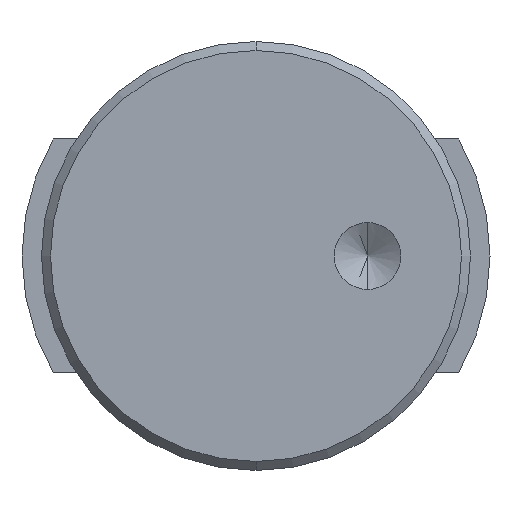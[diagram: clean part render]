
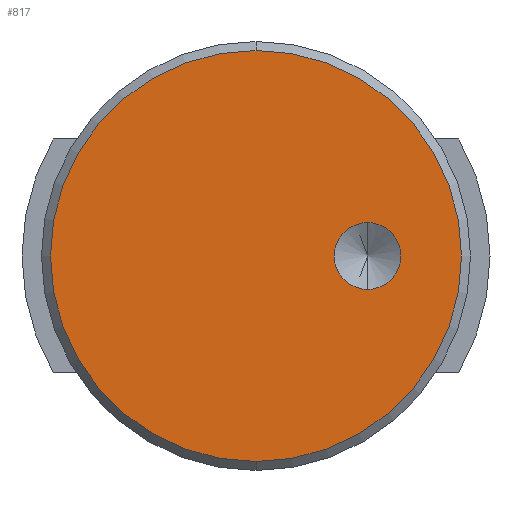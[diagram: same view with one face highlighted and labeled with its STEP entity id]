
A CAD part, front view. The second image highlights one B-rep face of the part: STEP entity #817.
In plain terms, the highlighted planar face has unit normal (0, -1, 0).
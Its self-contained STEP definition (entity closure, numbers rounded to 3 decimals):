
#11 = CARTESIAN_POINT ( 'NONE',  ( 14.3, 0., 0. ) ) ;
#35 = EDGE_LOOP ( 'NONE', ( #2058, #1103 ) ) ;
#44 = DIRECTION ( 'NONE',  ( 0., 0., 1. ) ) ;
#50 = DIRECTION ( 'NONE',  ( 0., -1., 0. ) ) ;
#108 = ORIENTED_EDGE ( 'NONE', *, *, #1820, .F. ) ;
#149 = VERTEX_POINT ( 'NONE', #1037 ) ;
#155 = AXIS2_PLACEMENT_3D ( 'NONE', #2551, #1340, #44 ) ;
#169 = CIRCLE ( 'NONE', #2294, 26.35 ) ;
#210 = FACE_OUTER_BOUND ( 'NONE', #35, .T. ) ;
#240 = EDGE_CURVE ( 'NONE', #149, #2436, #987, .T. ) ;
#258 = DIRECTION ( 'NONE',  ( 0., 0., -1. ) ) ;
#277 = DIRECTION ( 'NONE',  ( 0., 1., 0. ) ) ;
#322 = CARTESIAN_POINT ( 'NONE',  ( 14.3, 0., 4.283 ) ) ;
#366 = AXIS2_PLACEMENT_3D ( 'NONE', #912, #277, #1744 ) ;
#568 = CARTESIAN_POINT ( 'NONE',  ( 0., 0., 0. ) ) ;
#766 = DIRECTION ( 'NONE',  ( 0., 0., 1. ) ) ;
#795 = FACE_BOUND ( 'NONE', #2586, .T. ) ;
#817 = ADVANCED_FACE ( 'NONE', ( #795, #210 ), #1546, .F. ) ;
#912 = CARTESIAN_POINT ( 'NONE',  ( 0., 0., 0. ) ) ;
#987 = CIRCLE ( 'NONE', #155, 26.35 ) ;
#990 = EDGE_CURVE ( 'NONE', #2436, #149, #169, .T. ) ;
#1016 = AXIS2_PLACEMENT_3D ( 'NONE', #1344, #50, #1561 ) ;
#1037 = CARTESIAN_POINT ( 'NONE',  ( 0., 0., 26.35 ) ) ;
#1040 = CIRCLE ( 'NONE', #1016, 4.283 ) ;
#1103 = ORIENTED_EDGE ( 'NONE', *, *, #990, .F. ) ;
#1340 = DIRECTION ( 'NONE',  ( 0., 1., 0. ) ) ;
#1344 = CARTESIAN_POINT ( 'NONE',  ( 14.3, 0., 0. ) ) ;
#1520 = ORIENTED_EDGE ( 'NONE', *, *, #2455, .F. ) ;
#1531 = DIRECTION ( 'NONE',  ( 0., -1., 0. ) ) ;
#1546 = PLANE ( 'NONE',  #366 ) ;
#1561 = DIRECTION ( 'NONE',  ( 0., 0., -1. ) ) ;
#1744 = DIRECTION ( 'NONE',  ( 0., 0., 1. ) ) ;
#1820 = EDGE_CURVE ( 'NONE', #2034, #2556, #2662, .T. ) ;
#1994 = DIRECTION ( 'NONE',  ( 0., 1., 0. ) ) ;
#2034 = VERTEX_POINT ( 'NONE', #2404 ) ;
#2058 = ORIENTED_EDGE ( 'NONE', *, *, #240, .F. ) ;
#2144 = CARTESIAN_POINT ( 'NONE',  ( 0., 0., -26.35 ) ) ;
#2294 = AXIS2_PLACEMENT_3D ( 'NONE', #568, #1994, #766 ) ;
#2404 = CARTESIAN_POINT ( 'NONE',  ( 14.3, 0., -4.283 ) ) ;
#2436 = VERTEX_POINT ( 'NONE', #2144 ) ;
#2445 = AXIS2_PLACEMENT_3D ( 'NONE', #11, #1531, #258 ) ;
#2455 = EDGE_CURVE ( 'NONE', #2556, #2034, #1040, .T. ) ;
#2551 = CARTESIAN_POINT ( 'NONE',  ( 0., 0., 0. ) ) ;
#2556 = VERTEX_POINT ( 'NONE', #322 ) ;
#2586 = EDGE_LOOP ( 'NONE', ( #108, #1520 ) ) ;
#2662 = CIRCLE ( 'NONE', #2445, 4.283 ) ;
